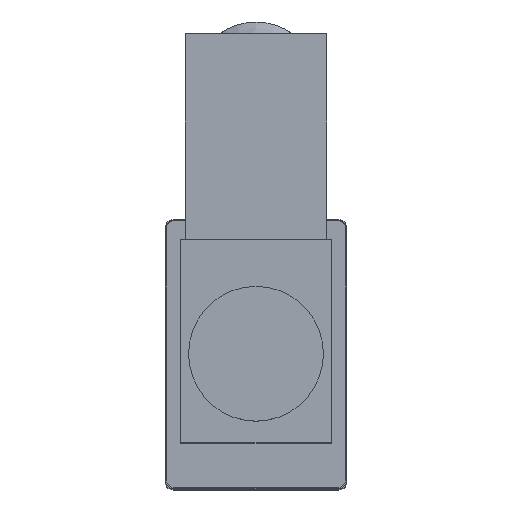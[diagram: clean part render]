
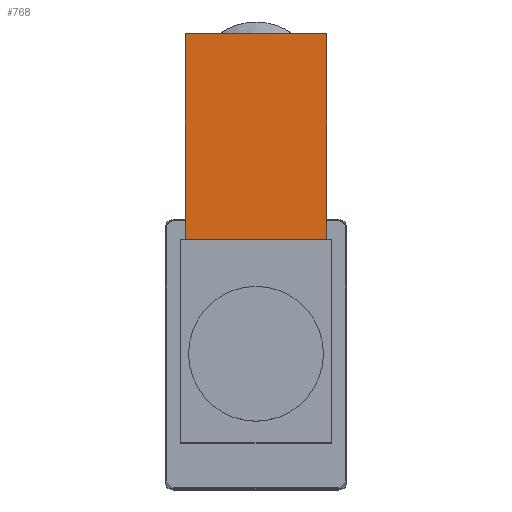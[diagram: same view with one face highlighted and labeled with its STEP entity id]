
A CAD part, top view. The second image highlights one B-rep face of the part: STEP entity #768.
In plain terms, the highlighted planar face has unit normal (0, 0, 1).
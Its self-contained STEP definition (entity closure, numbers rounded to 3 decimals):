
#107 = CARTESIAN_POINT ( 'NONE',  ( 10.5, 47.5, 55.7 ) ) ;
#342 = EDGE_CURVE ( 'NONE', #1506, #4684, #1686, .T. ) ;
#637 = VERTEX_POINT ( 'NONE', #2273 ) ;
#687 = VECTOR ( 'NONE', #1997, 1000. ) ;
#711 = AXIS2_PLACEMENT_3D ( 'NONE', #1287, #2453, #2477 ) ;
#768 = ADVANCED_FACE ( 'NONE', ( #4749 ), #1681, .F. ) ;
#863 = VERTEX_POINT ( 'NONE', #3616 ) ;
#910 = LINE ( 'NONE', #1342, #2775 ) ;
#960 = VECTOR ( 'NONE', #3993, 1000. ) ;
#1085 = CARTESIAN_POINT ( 'NONE',  ( -10.5, 47.5, 55.7 ) ) ;
#1287 = CARTESIAN_POINT ( 'NONE',  ( -10.5, 47.5, 55.7 ) ) ;
#1342 = CARTESIAN_POINT ( 'NONE',  ( -10.5, 47.5, 55.7 ) ) ;
#1506 = VERTEX_POINT ( 'NONE', #107 ) ;
#1681 = PLANE ( 'NONE',  #711 ) ;
#1686 = LINE ( 'NONE', #3670, #687 ) ;
#1997 = DIRECTION ( 'NONE',  ( 0., -1., 0. ) ) ;
#2043 = CARTESIAN_POINT ( 'NONE',  ( 0., 17., 55.7 ) ) ;
#2071 = CARTESIAN_POINT ( 'NONE',  ( 10.5, 17., 55.7 ) ) ;
#2154 = DIRECTION ( 'NONE',  ( 0., -1., 0. ) ) ;
#2273 = CARTESIAN_POINT ( 'NONE',  ( -10.5, 17., 55.7 ) ) ;
#2453 = DIRECTION ( 'NONE',  ( 0., 0., -1. ) ) ;
#2477 = DIRECTION ( 'NONE',  ( 0., -1., 0. ) ) ;
#2761 = ORIENTED_EDGE ( 'NONE', *, *, #4017, .F. ) ;
#2775 = VECTOR ( 'NONE', #2154, 1000. ) ;
#2992 = DIRECTION ( 'NONE',  ( 1., 0., 0. ) ) ;
#3036 = EDGE_CURVE ( 'NONE', #4684, #637, #4773, .T. ) ;
#3538 = EDGE_LOOP ( 'NONE', ( #4167, #4322, #2761, #4664 ) ) ;
#3616 = CARTESIAN_POINT ( 'NONE',  ( -10.5, 47.5, 55.7 ) ) ;
#3670 = CARTESIAN_POINT ( 'NONE',  ( 10.5, 47.5, 55.7 ) ) ;
#3881 = EDGE_CURVE ( 'NONE', #863, #637, #910, .T. ) ;
#3993 = DIRECTION ( 'NONE',  ( -1., 0., 0. ) ) ;
#4017 = EDGE_CURVE ( 'NONE', #863, #1506, #4675, .T. ) ;
#4167 = ORIENTED_EDGE ( 'NONE', *, *, #3036, .F. ) ;
#4322 = ORIENTED_EDGE ( 'NONE', *, *, #342, .F. ) ;
#4664 = ORIENTED_EDGE ( 'NONE', *, *, #3881, .T. ) ;
#4675 = LINE ( 'NONE', #1085, #4748 ) ;
#4684 = VERTEX_POINT ( 'NONE', #2071 ) ;
#4748 = VECTOR ( 'NONE', #2992, 1000. ) ;
#4749 = FACE_OUTER_BOUND ( 'NONE', #3538, .T. ) ;
#4773 = LINE ( 'NONE', #2043, #960 ) ;
